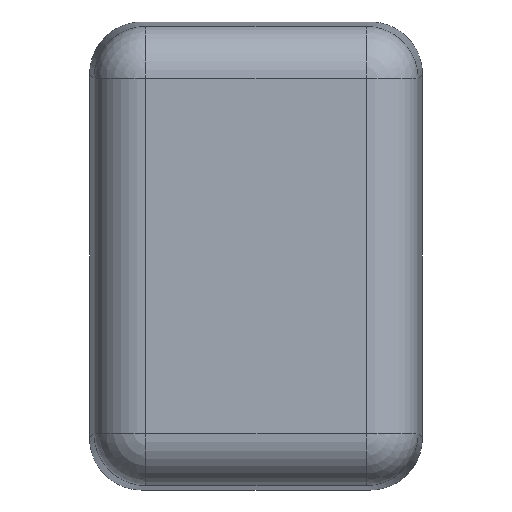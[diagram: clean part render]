
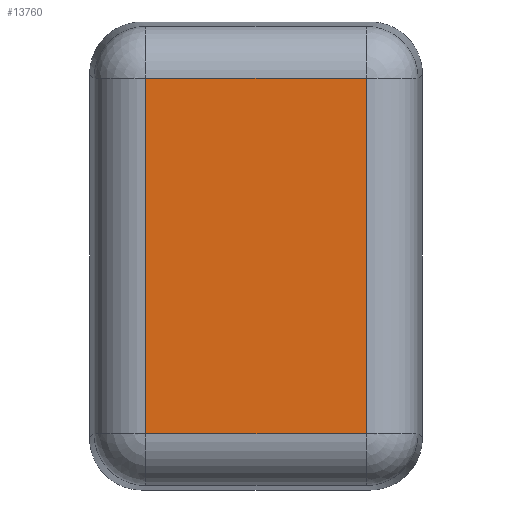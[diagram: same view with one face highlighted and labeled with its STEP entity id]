
A CAD part, front view. The second image highlights one B-rep face of the part: STEP entity #13760.
In plain terms, the highlighted planar face has unit normal (0, -1, 0).
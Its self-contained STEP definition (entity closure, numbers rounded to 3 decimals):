
#151 = CARTESIAN_POINT ( 'NONE',  ( -5.289, -8.5, 8.539 ) ) ;
#983 = ORIENTED_EDGE ( 'NONE', *, *, #13183, .T. ) ;
#1900 = DIRECTION ( 'NONE',  ( 0., 0., 1. ) ) ;
#1995 = DIRECTION ( 'NONE',  ( 0., 0., 1. ) ) ;
#2484 = CARTESIAN_POINT ( 'NONE',  ( 5.289, -8.5, -8.539 ) ) ;
#3159 = DIRECTION ( 'NONE',  ( 0., 1., 0. ) ) ;
#3384 = CARTESIAN_POINT ( 'NONE',  ( 5.289, -8.5, 8.539 ) ) ;
#3559 = VECTOR ( 'NONE', #12212, 1000. ) ;
#3713 = ORIENTED_EDGE ( 'NONE', *, *, #9206, .T. ) ;
#4460 = PLANE ( 'NONE',  #13315 ) ;
#4706 = EDGE_LOOP ( 'NONE', ( #3713, #983, #7447, #10985 ) ) ;
#5085 = VECTOR ( 'NONE', #1995, 1000. ) ;
#5634 = FACE_OUTER_BOUND ( 'NONE', #4706, .T. ) ;
#6075 = VECTOR ( 'NONE', #13125, 1000. ) ;
#7117 = DIRECTION ( 'NONE',  ( 0., 0., -1. ) ) ;
#7447 = ORIENTED_EDGE ( 'NONE', *, *, #8021, .T. ) ;
#8021 = EDGE_CURVE ( 'NONE', #10101, #12146, #9645, .T. ) ;
#9206 = EDGE_CURVE ( 'NONE', #10212, #14309, #13322, .T. ) ;
#9498 = CARTESIAN_POINT ( 'NONE',  ( -5.289, -8.5, -10.953 ) ) ;
#9591 = CARTESIAN_POINT ( 'NONE',  ( -5.289, -8.5, -8.539 ) ) ;
#9645 = LINE ( 'NONE', #12439, #5085 ) ;
#9815 = CARTESIAN_POINT ( 'NONE',  ( 7.703, -8.5, -8.539 ) ) ;
#10101 = VERTEX_POINT ( 'NONE', #2484 ) ;
#10212 = VERTEX_POINT ( 'NONE', #151 ) ;
#10423 = CARTESIAN_POINT ( 'NONE',  ( 0., -8.5, 0. ) ) ;
#10835 = EDGE_CURVE ( 'NONE', #12146, #10212, #13671, .T. ) ;
#10867 = CARTESIAN_POINT ( 'NONE',  ( -7.703, -8.5, 8.539 ) ) ;
#10873 = VECTOR ( 'NONE', #7117, 1000. ) ;
#10985 = ORIENTED_EDGE ( 'NONE', *, *, #10835, .T. ) ;
#12146 = VERTEX_POINT ( 'NONE', #3384 ) ;
#12212 = DIRECTION ( 'NONE',  ( 1., 0., 0. ) ) ;
#12439 = CARTESIAN_POINT ( 'NONE',  ( 5.289, -8.5, 10.953 ) ) ;
#13036 = LINE ( 'NONE', #9815, #3559 ) ;
#13125 = DIRECTION ( 'NONE',  ( -1., 0., 0. ) ) ;
#13183 = EDGE_CURVE ( 'NONE', #14309, #10101, #13036, .T. ) ;
#13315 = AXIS2_PLACEMENT_3D ( 'NONE', #10423, #3159, #1900 ) ;
#13322 = LINE ( 'NONE', #9498, #10873 ) ;
#13671 = LINE ( 'NONE', #10867, #6075 ) ;
#13760 = ADVANCED_FACE ( 'NONE', ( #5634 ), #4460, .F. ) ;
#14309 = VERTEX_POINT ( 'NONE', #9591 ) ;
